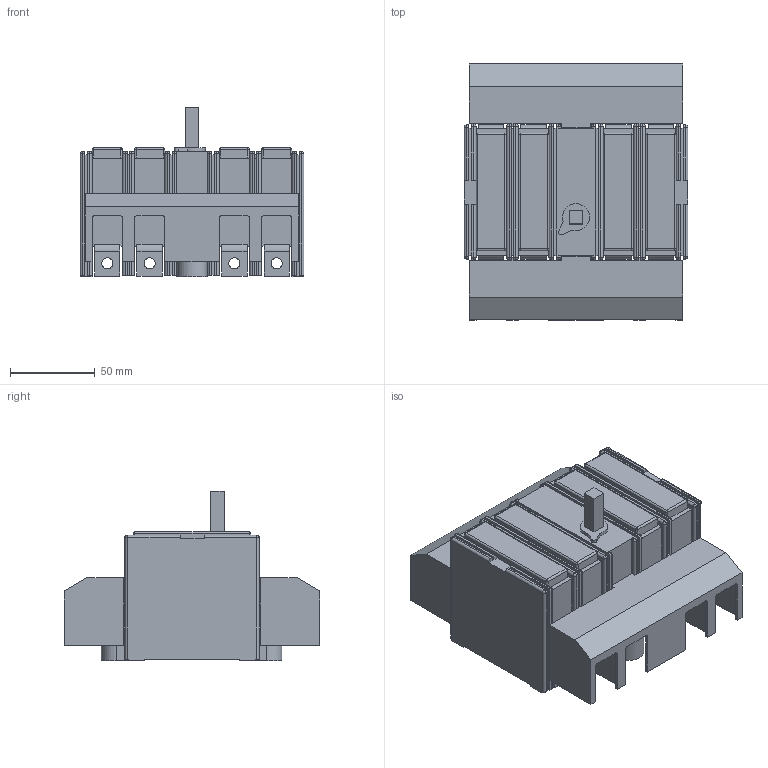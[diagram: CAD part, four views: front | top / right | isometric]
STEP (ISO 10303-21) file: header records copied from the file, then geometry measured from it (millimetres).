
FILE_DESCRIPTION(/* description */ (''),/* implementation_level */ '2;1');
FILE_NAME(/* name */ 'RA100 P3 NC z oslonka zaciskow, RA100 P4 C z oslonka zaciskow.stp',/* time_stamp */ '2021-08-17T14:42:18+02:00',/* author */ (''),/* organization */ (''),/* preprocessor_version */ 'ST-DEVELOPER v18.1',/* originating_system */ 'SIEMENS PLM Software NX 1965',/* authorisation */ '');
FILE_SCHEMA (('AUTOMOTIVE_DESIGN { 1 0 10303 214 3 1 1 1 }'));
Length unit declared in the file: millimetre
Products named in the file (1): RA100 P3 NC z oslonka zaciskow, RA100 P4 C z oslonka zaciskow_stp
Bounding box: 132 x 151.03 x 100 mm (x, y, z)
Volume: 696643.3 mm3; surface area: 128712 mm2
Topology: 1 solids, 1 shells, 505 faces, 1384 edges, 851 vertices
Faces by surface type: plane 316, cylinder 149, sphere 39, bspline 1
Full cylindrical faces by diameter (mm): 5.8 x2, 6.5 x8, 10 x2, 11.5 x2
Entity records: 15438 total; most frequent: CARTESIAN_POINT 2717, ORIENTED_EDGE 2648, DIRECTION 2628, EDGE_CURVE 1324, LINE 1024, VECTOR 1024, VERTEX_POINT 845, AXIS2_PLACEMENT_3D 802
